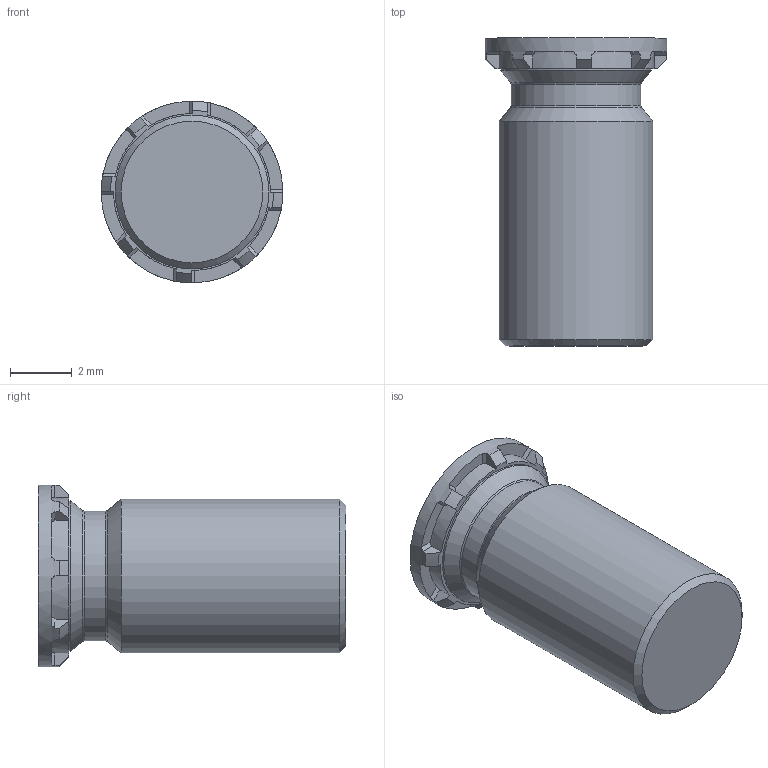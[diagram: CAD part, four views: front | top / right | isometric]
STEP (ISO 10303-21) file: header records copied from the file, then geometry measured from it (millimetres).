
FILE_DESCRIPTION(/* description */ (''),/* implementation_level */ '2;1');
FILE_NAME(/* name */ 'C:\Users\keval.kumar\Desktop\Fastit\Clinch Screw- Reduced FH Range\M5\Clinch Screw-Reduced FH Range_M5x10.stp',/* time_stamp */ '2024-03-12T14:08:39+06:00',/* author */ ('keval.kumar'),/* organization */ (''),/* preprocessor_version */ 'ST-DEVELOPER v18.1',/* originating_system */ 'Autodesk Inventor 2022',/* authorisation */ '');
FILE_SCHEMA (('AUTOMOTIVE_DESIGN { 1 0 10303 214 3 1 1 }'));
Length unit declared in the file: millimetre
Products named in the file (1): Clinch Screw-Reduced FH Range_M5x10
Bounding box: 5.9 x 10 x 5.9 mm (x, y, z)
Volume: 193.5 mm3; surface area: 214.5 mm2
Topology: 1 solids, 1 shells, 68 faces, 193 edges, 128 vertices
Faces by surface type: plane 43, cylinder 12, cone 11, torus 2
Full cylindrical faces by diameter (mm): 4.2 x1, 4.9 x1, 5 x1, 5.9 x1
Entity records: 2286 total; most frequent: DIRECTION 413, CARTESIAN_POINT 406, ORIENTED_EDGE 386, EDGE_CURVE 193, AXIS2_PLACEMENT_3D 159, VERTEX_POINT 128, LINE 95, VECTOR 95
